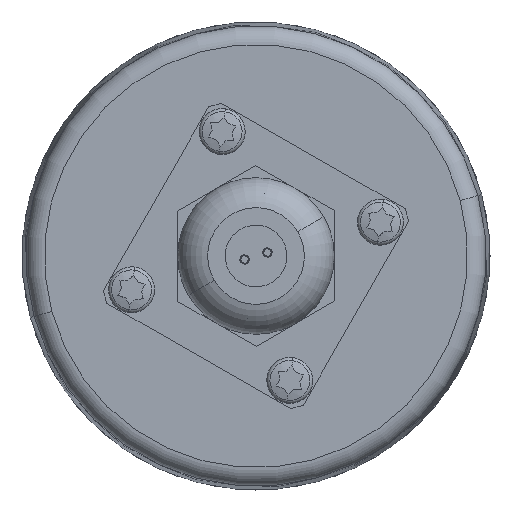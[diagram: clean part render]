
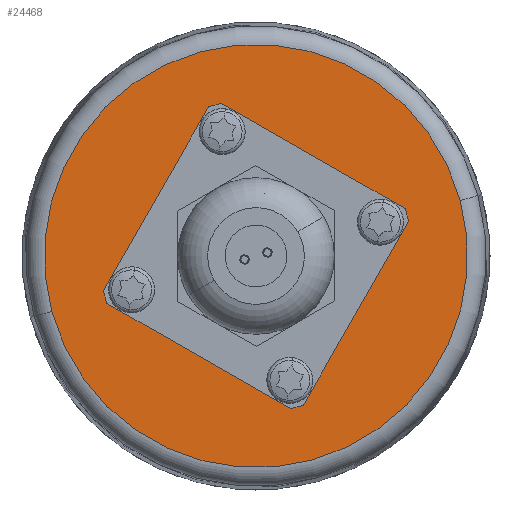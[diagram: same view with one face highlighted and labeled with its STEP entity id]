
A CAD part, left-side view. The second image highlights one B-rep face of the part: STEP entity #24468.
In plain terms, the highlighted planar face has unit normal (-1, 0, 0).
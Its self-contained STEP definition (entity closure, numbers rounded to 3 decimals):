
#5256 = DIRECTION ( 'NONE',  ( 0., 0.965, -0.262 ) ) ;
#5257 = DIRECTION ( 'NONE',  ( -1., 0., 0. ) ) ;
#5258 = AXIS2_PLACEMENT_3D ( 'NONE', #5268, #5257, #5256 ) ;
#5259 = CIRCLE ( 'NONE', #5258, 22.972 ) ;
#5268 = CARTESIAN_POINT ( 'NONE',  ( -21., 0., 0. ) ) ;
#5283 = DIRECTION ( 'NONE',  ( 0., -0.965, 0.262 ) ) ;
#5284 = DIRECTION ( 'NONE',  ( -1., 0., 0. ) ) ;
#5285 = CARTESIAN_POINT ( 'NONE',  ( -21., 0., 0. ) ) ;
#5286 = AXIS2_PLACEMENT_3D ( 'NONE', #5285, #5284, #5283 ) ;
#5288 = CIRCLE ( 'NONE', #5286, 11.5 ) ;
#5289 = DIRECTION ( 'NONE',  ( 0., 0.965, -0.262 ) ) ;
#5290 = DIRECTION ( 'NONE',  ( 1., 0., 0. ) ) ;
#5291 = CARTESIAN_POINT ( 'NONE',  ( -21., -13.51, 3.675 ) ) ;
#5292 = AXIS2_PLACEMENT_3D ( 'NONE', #5291, #5290, #5289 ) ;
#5293 = CIRCLE ( 'NONE', #5292, 1.389 ) ;
#5590 = DIRECTION ( 'NONE',  ( 0., 0.965, -0.262 ) ) ;
#5591 = DIRECTION ( 'NONE',  ( 1., 0., 0. ) ) ;
#5592 = CARTESIAN_POINT ( 'NONE',  ( -21., 0., 0. ) ) ;
#5593 = AXIS2_PLACEMENT_3D ( 'NONE', #5592, #5591, #5590 ) ;
#5594 = PLANE ( 'NONE',  #5593 ) ;
#5609 = FACE_BOUND ( 'NONE', #17791, .T. ) ;
#5610 = FACE_OUTER_BOUND ( 'NONE', #15270, .T. ) ;
#5611 = FACE_BOUND ( 'NONE', #18106, .T. ) ;
#5612 = FACE_BOUND ( 'NONE', #24621, .T. ) ;
#5613 = FACE_BOUND ( 'NONE', #24566, .T. ) ;
#5614 = FACE_BOUND ( 'NONE', #24564, .T. ) ;
#5911 = DIRECTION ( 'NONE',  ( 0., 0.965, -0.262 ) ) ;
#5912 = DIRECTION ( 'NONE',  ( 1., 0., 0. ) ) ;
#5913 = CARTESIAN_POINT ( 'NONE',  ( -21., -3.675, -13.51 ) ) ;
#5914 = AXIS2_PLACEMENT_3D ( 'NONE', #5913, #5912, #5911 ) ;
#5915 = CIRCLE ( 'NONE', #5914, 1.389 ) ;
#5964 = DIRECTION ( 'NONE',  ( 0., 0.965, -0.262 ) ) ;
#5965 = DIRECTION ( 'NONE',  ( 1., 0., 0. ) ) ;
#5966 = CARTESIAN_POINT ( 'NONE',  ( -21., 13.51, -3.675 ) ) ;
#5967 = AXIS2_PLACEMENT_3D ( 'NONE', #5966, #5965, #5964 ) ;
#5968 = CIRCLE ( 'NONE', #5967, 1.389 ) ;
#8086 = EDGE_CURVE ( 'NONE', #8088, #8713, #17283, .T. ) ;
#8088 = VERTEX_POINT ( 'NONE', #17278 ) ;
#8101 = EDGE_CURVE ( 'NONE', #8128, #8137, #17330, .T. ) ;
#8128 = VERTEX_POINT ( 'NONE', #17414 ) ;
#8137 = VERTEX_POINT ( 'NONE', #17442 ) ;
#8246 = VERTEX_POINT ( 'NONE', #17828 ) ;
#8327 = EDGE_CURVE ( 'NONE', #15156, #8246, #18071, .T. ) ;
#8658 = VERTEX_POINT ( 'NONE', #19146 ) ;
#8674 = VERTEX_POINT ( 'NONE', #19276 ) ;
#8713 = VERTEX_POINT ( 'NONE', #19383 ) ;
#8735 = VERTEX_POINT ( 'NONE', #19449 ) ;
#8737 = EDGE_CURVE ( 'NONE', #8738, #8674, #19448, .T. ) ;
#8738 = VERTEX_POINT ( 'NONE', #19443 ) ;
#8741 = EDGE_CURVE ( 'NONE', #8658, #8735, #19438, .T. ) ;
#8854 = VERTEX_POINT ( 'NONE', #19862 ) ;
#9034 = EDGE_CURVE ( 'NONE', #8854, #9035, #20415, .T. ) ;
#9035 = VERTEX_POINT ( 'NONE', #20410 ) ;
#15156 = VERTEX_POINT ( 'NONE', #22303 ) ;
#15262 = EDGE_CURVE ( 'NONE', #8674, #8738, #22581, .T. ) ;
#15263 = ORIENTED_EDGE ( 'NONE', *, *, #8737, .T. ) ;
#15267 = ORIENTED_EDGE ( 'NONE', *, *, #17639, .T. ) ;
#15270 = EDGE_LOOP ( 'NONE', ( #15267, #17339 ) ) ;
#15271 = ORIENTED_EDGE ( 'NONE', *, *, #8741, .T. ) ;
#15272 = ORIENTED_EDGE ( 'NONE', *, *, #18002, .T. ) ;
#15278 = ORIENTED_EDGE ( 'NONE', *, *, #9034, .F. ) ;
#17278 = CARTESIAN_POINT ( 'NONE',  ( -21., -5.015, -13.145 ) ) ;
#17279 = DIRECTION ( 'NONE',  ( 0., 0.965, -0.262 ) ) ;
#17280 = DIRECTION ( 'NONE',  ( 1., 0., 0. ) ) ;
#17281 = CARTESIAN_POINT ( 'NONE',  ( -21., -3.675, -13.51 ) ) ;
#17282 = AXIS2_PLACEMENT_3D ( 'NONE', #17281, #17280, #17279 ) ;
#17283 = CIRCLE ( 'NONE', #17282, 1.389 ) ;
#17326 = DIRECTION ( 'NONE',  ( 0., 0.965, -0.262 ) ) ;
#17327 = DIRECTION ( 'NONE',  ( 1., 0., 0. ) ) ;
#17328 = CARTESIAN_POINT ( 'NONE',  ( -21., 13.51, -3.675 ) ) ;
#17329 = AXIS2_PLACEMENT_3D ( 'NONE', #17328, #17327, #17326 ) ;
#17330 = CIRCLE ( 'NONE', #17329, 1.389 ) ;
#17339 = ORIENTED_EDGE ( 'NONE', *, *, #8327, .T. ) ;
#17414 = CARTESIAN_POINT ( 'NONE',  ( -21., 12.17, -3.31 ) ) ;
#17442 = CARTESIAN_POINT ( 'NONE',  ( -21., 14.85, -4.039 ) ) ;
#17639 = EDGE_CURVE ( 'NONE', #8246, #15156, #5259, .T. ) ;
#17791 = EDGE_LOOP ( 'NONE', ( #17898, #15278 ) ) ;
#17828 = CARTESIAN_POINT ( 'NONE',  ( -21., 22.167, -6.03 ) ) ;
#17898 = ORIENTED_EDGE ( 'NONE', *, *, #18011, .F. ) ;
#18002 = EDGE_CURVE ( 'NONE', #8735, #8658, #5293, .T. ) ;
#18011 = EDGE_CURVE ( 'NONE', #9035, #8854, #5288, .T. ) ;
#18063 = DIRECTION ( 'NONE',  ( 0., 0.965, -0.262 ) ) ;
#18064 = DIRECTION ( 'NONE',  ( -1., 0., 0. ) ) ;
#18065 = CARTESIAN_POINT ( 'NONE',  ( -21., 0., 0. ) ) ;
#18066 = AXIS2_PLACEMENT_3D ( 'NONE', #18065, #18064, #18063 ) ;
#18071 = CIRCLE ( 'NONE', #18066, 22.972 ) ;
#18106 = EDGE_LOOP ( 'NONE', ( #15271, #15272 ) ) ;
#19146 = CARTESIAN_POINT ( 'NONE',  ( -21., -14.85, 4.039 ) ) ;
#19276 = CARTESIAN_POINT ( 'NONE',  ( -21., 5.015, 13.145 ) ) ;
#19383 = CARTESIAN_POINT ( 'NONE',  ( -21., -2.335, -13.874 ) ) ;
#19434 = DIRECTION ( 'NONE',  ( 0., 0.965, -0.262 ) ) ;
#19435 = DIRECTION ( 'NONE',  ( 1., 0., 0. ) ) ;
#19436 = CARTESIAN_POINT ( 'NONE',  ( -21., -13.51, 3.675 ) ) ;
#19437 = AXIS2_PLACEMENT_3D ( 'NONE', #19436, #19435, #19434 ) ;
#19438 = CIRCLE ( 'NONE', #19437, 1.389 ) ;
#19443 = CARTESIAN_POINT ( 'NONE',  ( -21., 2.335, 13.874 ) ) ;
#19444 = DIRECTION ( 'NONE',  ( 0., 0.965, -0.262 ) ) ;
#19445 = DIRECTION ( 'NONE',  ( 1., 0., 0. ) ) ;
#19446 = CARTESIAN_POINT ( 'NONE',  ( -21., 3.675, 13.51 ) ) ;
#19447 = AXIS2_PLACEMENT_3D ( 'NONE', #19446, #19445, #19444 ) ;
#19448 = CIRCLE ( 'NONE', #19447, 1.389 ) ;
#19449 = CARTESIAN_POINT ( 'NONE',  ( -21., -12.17, 3.31 ) ) ;
#19862 = CARTESIAN_POINT ( 'NONE',  ( -21., 11.097, -3.018 ) ) ;
#20410 = CARTESIAN_POINT ( 'NONE',  ( -21., -11.097, 3.018 ) ) ;
#20411 = DIRECTION ( 'NONE',  ( 0., -0.965, 0.262 ) ) ;
#20412 = DIRECTION ( 'NONE',  ( -1., 0., 0. ) ) ;
#20413 = CARTESIAN_POINT ( 'NONE',  ( -21., 0., 0. ) ) ;
#20414 = AXIS2_PLACEMENT_3D ( 'NONE', #20413, #20412, #20411 ) ;
#20415 = CIRCLE ( 'NONE', #20414, 11.5 ) ;
#22303 = CARTESIAN_POINT ( 'NONE',  ( -21., -22.167, 6.03 ) ) ;
#22544 = ORIENTED_EDGE ( 'NONE', *, *, #15262, .T. ) ;
#22577 = DIRECTION ( 'NONE',  ( 0., 0.965, -0.262 ) ) ;
#22578 = DIRECTION ( 'NONE',  ( 1., 0., 0. ) ) ;
#22579 = CARTESIAN_POINT ( 'NONE',  ( -21., 3.675, 13.51 ) ) ;
#22580 = AXIS2_PLACEMENT_3D ( 'NONE', #22579, #22578, #22577 ) ;
#22581 = CIRCLE ( 'NONE', #22580, 1.389 ) ;
#24468 = ADVANCED_FACE ( 'NONE', ( #5614, #5613, #5612, #5611, #5610, #5609 ), #5594, .F. ) ;
#24559 = EDGE_CURVE ( 'NONE', #8713, #8088, #5915, .T. ) ;
#24563 = ORIENTED_EDGE ( 'NONE', *, *, #8086, .T. ) ;
#24564 = EDGE_LOOP ( 'NONE', ( #24569, #24565 ) ) ;
#24565 = ORIENTED_EDGE ( 'NONE', *, *, #24568, .T. ) ;
#24566 = EDGE_LOOP ( 'NONE', ( #24563, #24567 ) ) ;
#24567 = ORIENTED_EDGE ( 'NONE', *, *, #24559, .T. ) ;
#24568 = EDGE_CURVE ( 'NONE', #8137, #8128, #5968, .T. ) ;
#24569 = ORIENTED_EDGE ( 'NONE', *, *, #8101, .T. ) ;
#24621 = EDGE_LOOP ( 'NONE', ( #15263, #22544 ) ) ;
